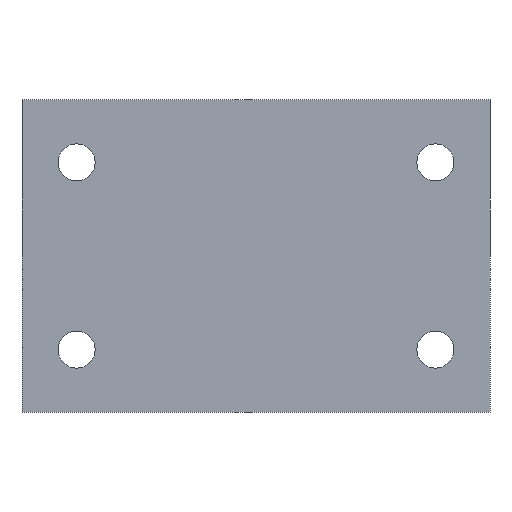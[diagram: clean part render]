
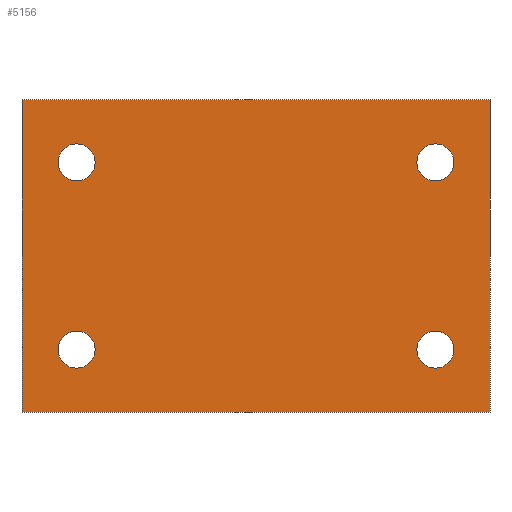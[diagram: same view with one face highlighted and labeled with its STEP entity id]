
A CAD part, front view. The second image highlights one B-rep face of the part: STEP entity #5156.
In plain terms, the highlighted planar face has unit normal (0, -1, 0).
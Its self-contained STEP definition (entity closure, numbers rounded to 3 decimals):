
#4 = VECTOR ( 'NONE', #9216, 1000. ) ;
#58 = LINE ( 'NONE', #9161, #4 ) ;
#124 = EDGE_LOOP ( 'NONE', ( #3794, #5190, #9206, #384 ) ) ;
#209 = ORIENTED_EDGE ( 'NONE', *, *, #7617, .T. ) ;
#244 = CARTESIAN_POINT ( 'NONE',  ( 146.05, 0., -76.2 ) ) ;
#304 = AXIS2_PLACEMENT_3D ( 'NONE', #407, #3739, #1176 ) ;
#384 = ORIENTED_EDGE ( 'NONE', *, *, #6615, .F. ) ;
#407 = CARTESIAN_POINT ( 'NONE',  ( 146.05, 0., 76.2 ) ) ;
#431 = DIRECTION ( 'NONE',  ( 0., 0., 1. ) ) ;
#482 = CARTESIAN_POINT ( 'NONE',  ( 146.05, 0., -76.2 ) ) ;
#520 = ORIENTED_EDGE ( 'NONE', *, *, #734, .T. ) ;
#530 = VECTOR ( 'NONE', #1509, 1000. ) ;
#559 = CARTESIAN_POINT ( 'NONE',  ( -190.5, 0., -127. ) ) ;
#584 = LINE ( 'NONE', #4023, #530 ) ;
#616 = VERTEX_POINT ( 'NONE', #9269 ) ;
#693 = AXIS2_PLACEMENT_3D ( 'NONE', #3004, #4648, #2017 ) ;
#734 = EDGE_CURVE ( 'NONE', #5778, #2325, #8936, .T. ) ;
#755 = EDGE_CURVE ( 'NONE', #3597, #4248, #2603, .T. ) ;
#1003 = EDGE_CURVE ( 'NONE', #9183, #8940, #4253, .T. ) ;
#1016 = DIRECTION ( 'NONE',  ( 0., 0., 1. ) ) ;
#1046 = DIRECTION ( 'NONE',  ( 0., 0., 1. ) ) ;
#1102 = DIRECTION ( 'NONE',  ( 0., 1., 0. ) ) ;
#1141 = CIRCLE ( 'NONE', #2869, 15.1 ) ;
#1176 = DIRECTION ( 'NONE',  ( 0., 0., 1. ) ) ;
#1177 = VERTEX_POINT ( 'NONE', #4587 ) ;
#1417 = VERTEX_POINT ( 'NONE', #5072 ) ;
#1509 = DIRECTION ( 'NONE',  ( -1., 0., 0. ) ) ;
#1522 = AXIS2_PLACEMENT_3D ( 'NONE', #244, #7768, #1016 ) ;
#1646 = ORIENTED_EDGE ( 'NONE', *, *, #5688, .T. ) ;
#1948 = EDGE_CURVE ( 'NONE', #4248, #3597, #8715, .T. ) ;
#2017 = DIRECTION ( 'NONE',  ( 0., 0., 1. ) ) ;
#2172 = DIRECTION ( 'NONE',  ( 0., 0., 1. ) ) ;
#2178 = VERTEX_POINT ( 'NONE', #6166 ) ;
#2253 = EDGE_LOOP ( 'NONE', ( #1646, #2673 ) ) ;
#2313 = EDGE_LOOP ( 'NONE', ( #9318, #7924 ) ) ;
#2325 = VERTEX_POINT ( 'NONE', #9479 ) ;
#2603 = CIRCLE ( 'NONE', #5591, 15.1 ) ;
#2673 = ORIENTED_EDGE ( 'NONE', *, *, #4557, .T. ) ;
#2720 = CARTESIAN_POINT ( 'NONE',  ( 146.05, 0., 61.1 ) ) ;
#2728 = CARTESIAN_POINT ( 'NONE',  ( -146.05, 0., 76.2 ) ) ;
#2869 = AXIS2_PLACEMENT_3D ( 'NONE', #3546, #6067, #10295 ) ;
#2885 = DIRECTION ( 'NONE',  ( 0., 1., 0. ) ) ;
#2905 = CIRCLE ( 'NONE', #1522, 15.1 ) ;
#3004 = CARTESIAN_POINT ( 'NONE',  ( -146.05, 0., 76.2 ) ) ;
#3546 = CARTESIAN_POINT ( 'NONE',  ( -146.05, 0., -76.2 ) ) ;
#3597 = VERTEX_POINT ( 'NONE', #10490 ) ;
#3666 = DIRECTION ( 'NONE',  ( 0., 1., 0. ) ) ;
#3739 = DIRECTION ( 'NONE',  ( 0., 1., 0. ) ) ;
#3782 = VECTOR ( 'NONE', #10118, 1000. ) ;
#3794 = ORIENTED_EDGE ( 'NONE', *, *, #1003, .F. ) ;
#3816 = CARTESIAN_POINT ( 'NONE',  ( 190.5, 0., 127. ) ) ;
#3943 = ORIENTED_EDGE ( 'NONE', *, *, #9132, .T. ) ;
#4023 = CARTESIAN_POINT ( 'NONE',  ( -190.5, 0., -127. ) ) ;
#4077 = VERTEX_POINT ( 'NONE', #559 ) ;
#4248 = VERTEX_POINT ( 'NONE', #2720 ) ;
#4253 = LINE ( 'NONE', #7611, #6301 ) ;
#4344 = CIRCLE ( 'NONE', #5923, 15.1 ) ;
#4557 = EDGE_CURVE ( 'NONE', #2178, #1417, #1141, .T. ) ;
#4587 = CARTESIAN_POINT ( 'NONE',  ( -190.5, 0., 127. ) ) ;
#4593 = FACE_OUTER_BOUND ( 'NONE', #124, .T. ) ;
#4648 = DIRECTION ( 'NONE',  ( 0., 1., 0. ) ) ;
#4876 = VERTEX_POINT ( 'NONE', #10821 ) ;
#4888 = CIRCLE ( 'NONE', #693, 15.1 ) ;
#4903 = DIRECTION ( 'NONE',  ( 0., 0., 1. ) ) ;
#5072 = CARTESIAN_POINT ( 'NONE',  ( -146.05, 0., -91.3 ) ) ;
#5156 = ADVANCED_FACE ( 'NONE', ( #4593, #7182, #7289, #8885, #7952 ), #10528, .F. ) ;
#5190 = ORIENTED_EDGE ( 'NONE', *, *, #9511, .F. ) ;
#5305 = DIRECTION ( 'NONE',  ( 0., 0., 1. ) ) ;
#5358 = CARTESIAN_POINT ( 'NONE',  ( 146.05, 0., 76.2 ) ) ;
#5591 = AXIS2_PLACEMENT_3D ( 'NONE', #5358, #1102, #1046 ) ;
#5688 = EDGE_CURVE ( 'NONE', #1417, #2178, #4344, .T. ) ;
#5778 = VERTEX_POINT ( 'NONE', #7752 ) ;
#5923 = AXIS2_PLACEMENT_3D ( 'NONE', #7267, #10719, #4903 ) ;
#6067 = DIRECTION ( 'NONE',  ( 0., 1., 0. ) ) ;
#6125 = CARTESIAN_POINT ( 'NONE',  ( 190.5, 0., -127. ) ) ;
#6166 = CARTESIAN_POINT ( 'NONE',  ( -146.05, 0., -61.1 ) ) ;
#6301 = VECTOR ( 'NONE', #10028, 1000. ) ;
#6407 = CARTESIAN_POINT ( 'NONE',  ( 0., 0., 0. ) ) ;
#6410 = CIRCLE ( 'NONE', #9044, 15.1 ) ;
#6615 = EDGE_CURVE ( 'NONE', #8940, #4077, #584, .T. ) ;
#6773 = CARTESIAN_POINT ( 'NONE',  ( -190.5, 0., 127. ) ) ;
#7182 = FACE_BOUND ( 'NONE', #2253, .T. ) ;
#7267 = CARTESIAN_POINT ( 'NONE',  ( -146.05, 0., -76.2 ) ) ;
#7289 = FACE_BOUND ( 'NONE', #10623, .T. ) ;
#7304 = EDGE_CURVE ( 'NONE', #4077, #1177, #58, .T. ) ;
#7357 = AXIS2_PLACEMENT_3D ( 'NONE', #2728, #3666, #5305 ) ;
#7611 = CARTESIAN_POINT ( 'NONE',  ( 190.5, 0., -127. ) ) ;
#7617 = EDGE_CURVE ( 'NONE', #2325, #5778, #4888, .T. ) ;
#7752 = CARTESIAN_POINT ( 'NONE',  ( -146.05, 0., 91.3 ) ) ;
#7768 = DIRECTION ( 'NONE',  ( 0., 1., 0. ) ) ;
#7924 = ORIENTED_EDGE ( 'NONE', *, *, #755, .T. ) ;
#7952 = FACE_BOUND ( 'NONE', #10048, .T. ) ;
#8386 = AXIS2_PLACEMENT_3D ( 'NONE', #6407, #2885, #431 ) ;
#8715 = CIRCLE ( 'NONE', #304, 15.1 ) ;
#8885 = FACE_BOUND ( 'NONE', #2313, .T. ) ;
#8936 = CIRCLE ( 'NONE', #7357, 15.1 ) ;
#8940 = VERTEX_POINT ( 'NONE', #6125 ) ;
#9044 = AXIS2_PLACEMENT_3D ( 'NONE', #482, #10626, #2172 ) ;
#9132 = EDGE_CURVE ( 'NONE', #616, #4876, #6410, .T. ) ;
#9161 = CARTESIAN_POINT ( 'NONE',  ( -190.5, 0., -127. ) ) ;
#9183 = VERTEX_POINT ( 'NONE', #3816 ) ;
#9206 = ORIENTED_EDGE ( 'NONE', *, *, #7304, .F. ) ;
#9216 = DIRECTION ( 'NONE',  ( 0., 0., 1. ) ) ;
#9269 = CARTESIAN_POINT ( 'NONE',  ( 146.05, 0., -91.3 ) ) ;
#9318 = ORIENTED_EDGE ( 'NONE', *, *, #1948, .T. ) ;
#9479 = CARTESIAN_POINT ( 'NONE',  ( -146.05, 0., 61.1 ) ) ;
#9497 = EDGE_CURVE ( 'NONE', #4876, #616, #2905, .T. ) ;
#9511 = EDGE_CURVE ( 'NONE', #1177, #9183, #10281, .T. ) ;
#10028 = DIRECTION ( 'NONE',  ( 0., 0., -1. ) ) ;
#10048 = EDGE_LOOP ( 'NONE', ( #3943, #10658 ) ) ;
#10118 = DIRECTION ( 'NONE',  ( 1., 0., 0. ) ) ;
#10281 = LINE ( 'NONE', #6773, #3782 ) ;
#10295 = DIRECTION ( 'NONE',  ( 0., 0., 1. ) ) ;
#10490 = CARTESIAN_POINT ( 'NONE',  ( 146.05, 0., 91.3 ) ) ;
#10528 = PLANE ( 'NONE',  #8386 ) ;
#10623 = EDGE_LOOP ( 'NONE', ( #209, #520 ) ) ;
#10626 = DIRECTION ( 'NONE',  ( 0., 1., 0. ) ) ;
#10658 = ORIENTED_EDGE ( 'NONE', *, *, #9497, .T. ) ;
#10719 = DIRECTION ( 'NONE',  ( 0., 1., 0. ) ) ;
#10821 = CARTESIAN_POINT ( 'NONE',  ( 146.05, 0., -61.1 ) ) ;
